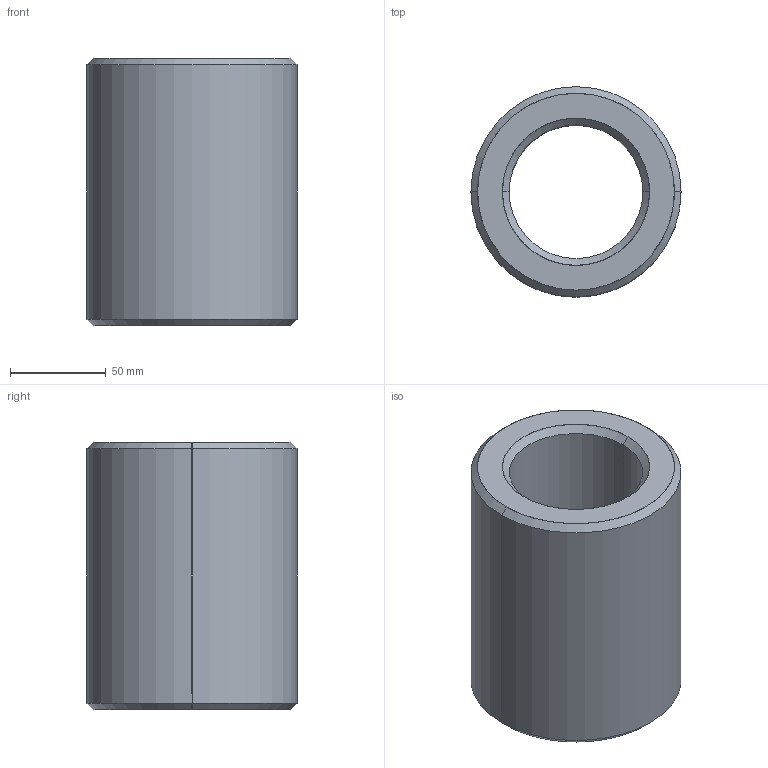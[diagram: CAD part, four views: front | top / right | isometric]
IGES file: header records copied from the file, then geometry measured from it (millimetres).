
Start section: SolidWorks IGES file using analytic representation for surfaces
Global section: file name: C:\Users\ianosborn\Desktop\L1330_v2\L1330_v2_20241024_IGES\L1330.R70-10.igs; native system: SolidWorks 2019; preprocessor: SolidWorks 2019; author: IanOsborn; date: 241024.103011; units: millimetre
Bounding box: 110 x 110 x 140 mm (x, y, z)
Surface area: 88159.1 mm2 (no closed solid volume)
Topology: 0 solids, 0 shells, 14 faces, 304 edges, 304 vertices
Faces by surface type: revolution 12, bspline 2
